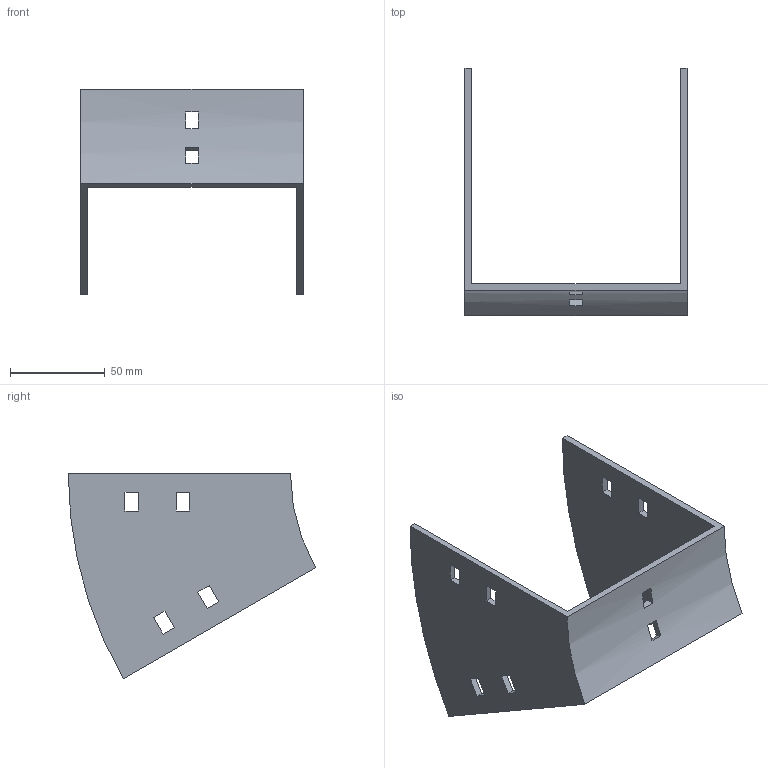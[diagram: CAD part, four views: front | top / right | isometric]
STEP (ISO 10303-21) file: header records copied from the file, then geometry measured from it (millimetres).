
FILE_DESCRIPTION (( 'STEP AP214' ), '1' );
FILE_NAME ('35B1H117.step', '2025-02-21T09:24:44', ( '' ), ( '' ), 'SwSTEP 2.0', 'SolidWorks 2023', '' );
FILE_SCHEMA (( 'AUTOMOTIVE_DESIGN' ));
Length unit declared in the file: millimetre
Products named in the file (1): 35B1H117
Bounding box: 117.5 x 130.9 x 108.75 mm (x, y, z)
Volume: 86596.7 mm3; surface area: 53865.1 mm2
Topology: 1 solids, 1 shells, 50 faces, 144 edges, 96 vertices
Faces by surface type: plane 46, cylinder 4
Entity records: 1687 total; most frequent: CARTESIAN_POINT 291, ORIENTED_EDGE 288, DIRECTION 262, EDGE_CURVE 144, VECTOR 128, LINE 128, VERTEX_POINT 96, EDGE_LOOP 70
